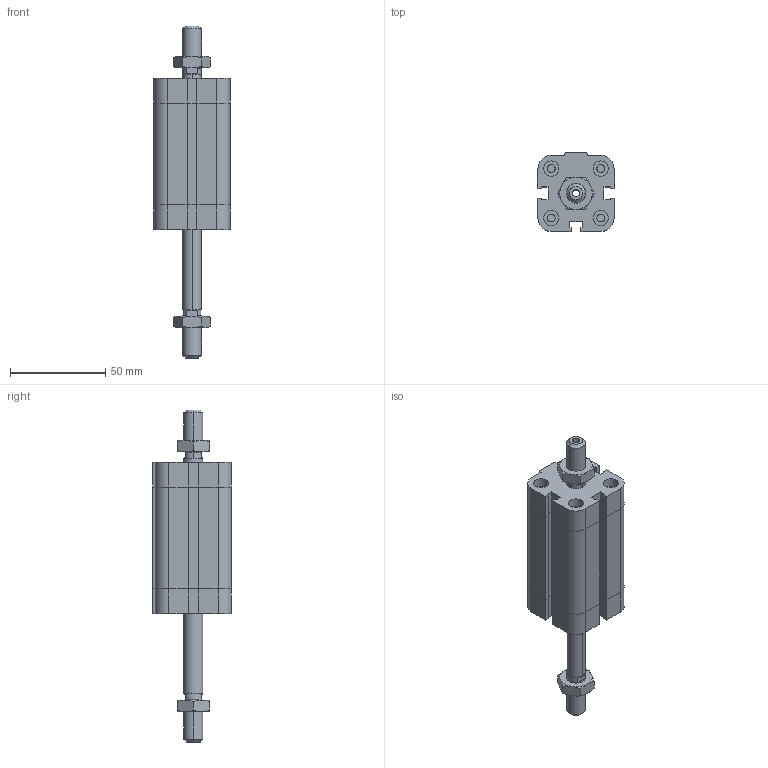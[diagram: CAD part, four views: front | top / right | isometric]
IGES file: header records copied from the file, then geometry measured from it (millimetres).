
Global section: file name: No Iges File Name specified; native system: Autodesk Inventor 2009; preprocessor: AutoDesk Inventor Iges Exporter R2009; author: maffial1; date: 20090420.142657; units: millimetre
Bounding box: 40 x 41.5 x 174.5 mm (x, y, z)
Volume: 121148 mm3; surface area: 32599.7 mm2
Topology: 4 solids, 4 shells, 262 faces, 580 edges, 346 vertices
Faces by surface type: plane 129, bspline 53, cone 38, cylinder 22, revolution 20
